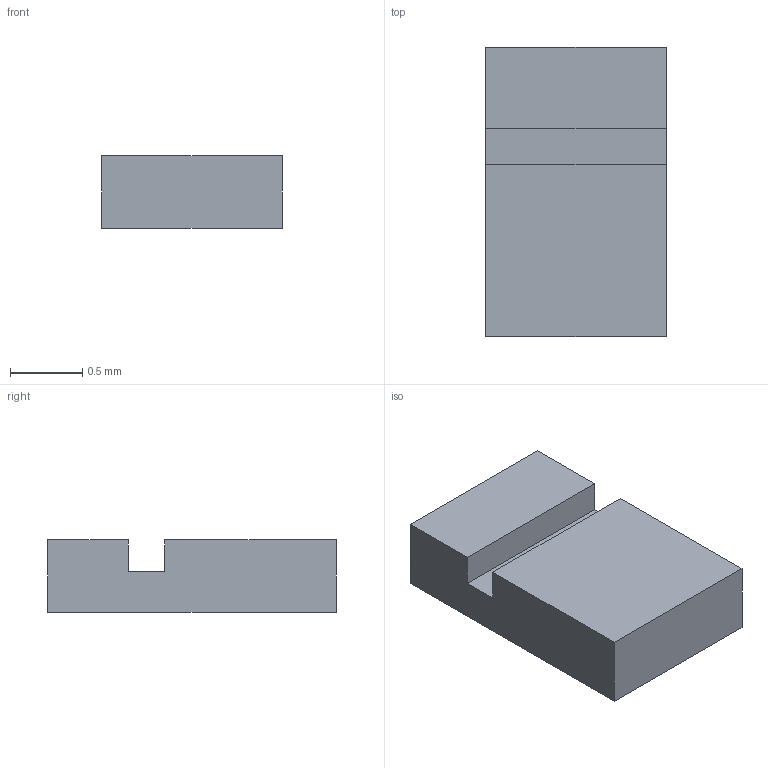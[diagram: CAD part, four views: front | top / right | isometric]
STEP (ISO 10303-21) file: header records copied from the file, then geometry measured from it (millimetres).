
FILE_DESCRIPTION((''),'2;1');
FILE_NAME('VCNL36825T','2019-08-30T',('mhsu4'),(''),'PRO/ENGINEER BY PARAMETRIC TECHNOLOGY CORPORATION, 2014320','PRO/ENGINEER BY PARAMETRIC TECHNOLOGY CORPORATION, 2014320','');
FILE_SCHEMA(('CONFIG_CONTROL_DESIGN'));
Length unit declared in the file: millimetre
Products named in the file (1): VCNL36825T
Bounding box: 1.25 x 2 x 0.5 mm (x, y, z)
Volume: 1.2 mm3; surface area: 8.7 mm2
Topology: 1 solids, 1 shells, 10 faces, 55 edges, 47 vertices
Faces by surface type: plane 10
Entity records: 531 total; most frequent: CARTESIAN_POINT 82, DIRECTION 79, VECTOR 53, LINE 53, ORIENTED_EDGE 48, TRIMMED_CURVE 31, COMPOSITE_CURVE_SEGMENT 31, EDGE_CURVE 24
